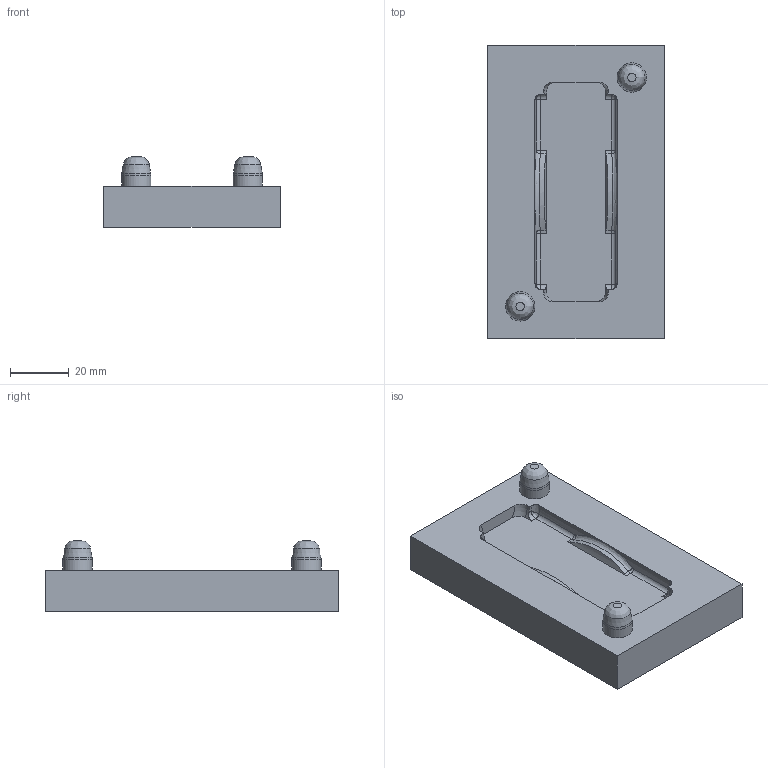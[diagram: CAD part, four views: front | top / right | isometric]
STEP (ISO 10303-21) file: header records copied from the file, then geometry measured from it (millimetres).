
FILE_DESCRIPTION(/* description */ (''),/* implementation_level */ '2;1');
FILE_NAME(/* name */ 'Mal deel 2.stp',/* time_stamp */ '2018-06-06T14:44:45+02:00',/* author */ (''),/* organization */ (''),/* preprocessor_version */ 'ST-DEVELOPER v16',/* originating_system */ 'SIEMENS PLM Software NX 11.0',/* authorisation */ '');
FILE_SCHEMA (('AUTOMOTIVE_DESIGN { 1 0 10303 214 3 1 1 1 }'));
Length unit declared in the file: millimetre
Products named in the file (1): Mal2 deel 2
Bounding box: 60 x 100 x 24 mm (x, y, z)
Volume: 76735.5 mm3; surface area: 17690.3 mm2
Topology: 1 solids, 1 shells, 69 faces, 172 edges, 104 vertices
Faces by surface type: cylinder 26, bspline 20, plane 15, torus 4, cone 2, sphere 2
Full cylindrical faces by diameter (mm): 10 x2
Entity records: 2580 total; most frequent: CARTESIAN_POINT 1134, ORIENTED_EDGE 312, DIRECTION 258, EDGE_CURVE 156, VERTEX_POINT 100, AXIS2_PLACEMENT_3D 100, EDGE_LOOP 80, ADVANCED_FACE 69
